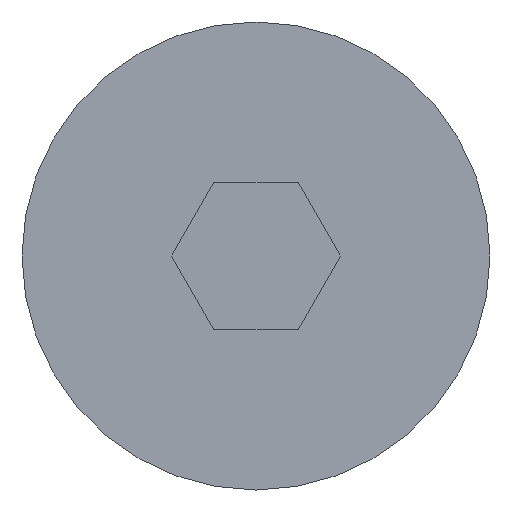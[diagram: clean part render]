
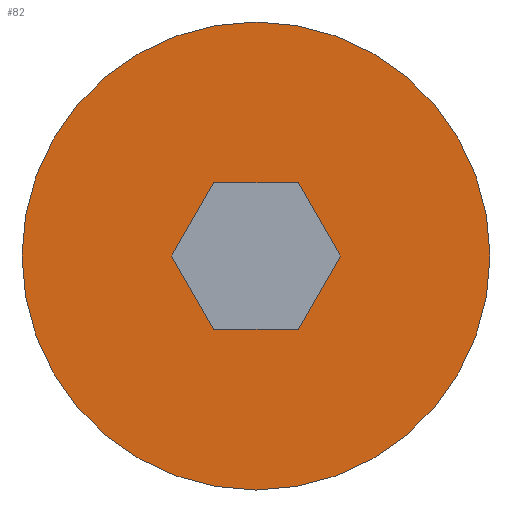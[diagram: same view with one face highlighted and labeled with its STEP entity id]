
A CAD part, left-side view. The second image highlights one B-rep face of the part: STEP entity #82.
In plain terms, the highlighted free-form (B-spline) face has degree [1, 1] with [3, 4] control points.
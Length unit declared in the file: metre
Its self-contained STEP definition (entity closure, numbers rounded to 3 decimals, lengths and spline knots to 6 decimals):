
#82 = ADVANCED_FACE( '', ( #106, #107 ), #108, .T. );
#106 = FACE_BOUND( '', #217, .T. );
#107 = FACE_OUTER_BOUND( '', #218, .T. );
#108 = B_SPLINE_SURFACE_WITH_KNOTS( '', 1, 1, ( ( #219, #220, #221, #222 ), ( #223, #224, #225, #226 ), ( #227, #228, #229, #230 ) ), .UNSPECIFIED., .F., .F., .F., ( 2, 1, 2 ), ( 2, 1, 1, 2 ), ( -0.409091, 0., 1. ), ( -0.287296, 0., 1., 1.287296 ), .UNSPECIFIED. );
#217 = EDGE_LOOP( '', ( #295, #296, #297, #298, #299, #300 ) );
#218 = EDGE_LOOP( '', ( #301 ) );
#219 = CARTESIAN_POINT( '', ( 13.462935, 0.404027, 9.668269 ) );
#220 = CARTESIAN_POINT( '', ( 13.462935, 0.404027, 9.663213 ) );
#221 = CARTESIAN_POINT( '', ( 13.462935, 0.404027, 9.645613 ) );
#222 = CARTESIAN_POINT( '', ( 13.462935, 0.404027, 9.640556 ) );
#223 = CARTESIAN_POINT( '', ( 13.462935, 0.411227, 9.668269 ) );
#224 = CARTESIAN_POINT( '', ( 13.462935, 0.411227, 9.663213 ) );
#225 = CARTESIAN_POINT( '', ( 13.462935, 0.411227, 9.645613 ) );
#226 = CARTESIAN_POINT( '', ( 13.462935, 0.411227, 9.640556 ) );
#227 = CARTESIAN_POINT( '', ( 13.462935, 0.428827, 9.668269 ) );
#228 = CARTESIAN_POINT( '', ( 13.462935, 0.428827, 9.663213 ) );
#229 = CARTESIAN_POINT( '', ( 13.462935, 0.428827, 9.645613 ) );
#230 = CARTESIAN_POINT( '', ( 13.462935, 0.428827, 9.640556 ) );
#295 = ORIENTED_EDGE( '', *, *, #336, .F. );
#296 = ORIENTED_EDGE( '', *, *, #337, .F. );
#297 = ORIENTED_EDGE( '', *, *, #338, .F. );
#298 = ORIENTED_EDGE( '', *, *, #330, .F. );
#299 = ORIENTED_EDGE( '', *, *, #328, .F. );
#300 = ORIENTED_EDGE( '', *, *, #339, .F. );
#301 = ORIENTED_EDGE( '', *, *, #334, .T. );
#328 = EDGE_CURVE( '', #357, #359, #360, .T. );
#330 = EDGE_CURVE( '', #359, #362, #363, .T. );
#334 = EDGE_CURVE( '', #369, #369, #370, .F. );
#336 = EDGE_CURVE( '', #373, #374, #375, .T. );
#337 = EDGE_CURVE( '', #376, #373, #377, .T. );
#338 = EDGE_CURVE( '', #362, #376, #378, .T. );
#339 = EDGE_CURVE( '', #374, #357, #379, .T. );
#357 = VERTEX_POINT( '', #411 );
#359 = VERTEX_POINT( '', #414 );
#360 = LINE( '', #415, #416 );
#362 = VERTEX_POINT( '', #419 );
#363 = LINE( '', #420, #421 );
#369 = VERTEX_POINT( '', #428 );
#370 = CIRCLE( '', #429, 0.008 );
#373 = VERTEX_POINT( '', #432 );
#374 = VERTEX_POINT( '', #433 );
#375 = LINE( '', #434, #435 );
#376 = VERTEX_POINT( '', #436 );
#377 = LINE( '', #437, #438 );
#378 = LINE( '', #439, #440 );
#379 = LINE( '', #441, #442 );
#411 = CARTESIAN_POINT( '', ( 13.462935, 0.418584, 9.656913 ) );
#414 = CARTESIAN_POINT( '', ( 13.462935, 0.421471, 9.656913 ) );
#415 = CARTESIAN_POINT( '', ( 13.462935, 0.420027, 9.656913 ) );
#416 = VECTOR( '', #455, 1. );
#419 = CARTESIAN_POINT( '', ( 13.462935, 0.422914, 9.654413 ) );
#420 = CARTESIAN_POINT( '', ( 13.462935, 0.422193, 9.655663 ) );
#421 = VECTOR( '', #457, 1. );
#428 = CARTESIAN_POINT( '', ( 13.462935, 0.428027, 9.654413 ) );
#429 = AXIS2_PLACEMENT_3D( '', #465, #466, #467 );
#432 = CARTESIAN_POINT( '', ( 13.462935, 0.418584, 9.651913 ) );
#433 = CARTESIAN_POINT( '', ( 13.462935, 0.417141, 9.654413 ) );
#434 = CARTESIAN_POINT( '', ( 13.462935, 0.417862, 9.653163 ) );
#435 = VECTOR( '', #471, 1. );
#436 = CARTESIAN_POINT( '', ( 13.462935, 0.421471, 9.651913 ) );
#437 = CARTESIAN_POINT( '', ( 13.462935, 0.420027, 9.651913 ) );
#438 = VECTOR( '', #472, 1. );
#439 = CARTESIAN_POINT( '', ( 13.462935, 0.422193, 9.653163 ) );
#440 = VECTOR( '', #473, 1. );
#441 = CARTESIAN_POINT( '', ( 13.462935, 0.417862, 9.655663 ) );
#442 = VECTOR( '', #474, 1. );
#455 = DIRECTION( '', ( 0., 1., 0. ) );
#457 = DIRECTION( '', ( 0., 0.5, -0.866 ) );
#465 = CARTESIAN_POINT( '', ( 13.462935, 0.420027, 9.654413 ) );
#466 = DIRECTION( '', ( 1., 0., 0. ) );
#467 = DIRECTION( '', ( 0., 0., -1. ) );
#471 = DIRECTION( '', ( 0., -0.5, 0.866 ) );
#472 = DIRECTION( '', ( 0., -1., 0. ) );
#473 = DIRECTION( '', ( 0., -0.5, -0.866 ) );
#474 = DIRECTION( '', ( 0., 0.5, 0.866 ) );
